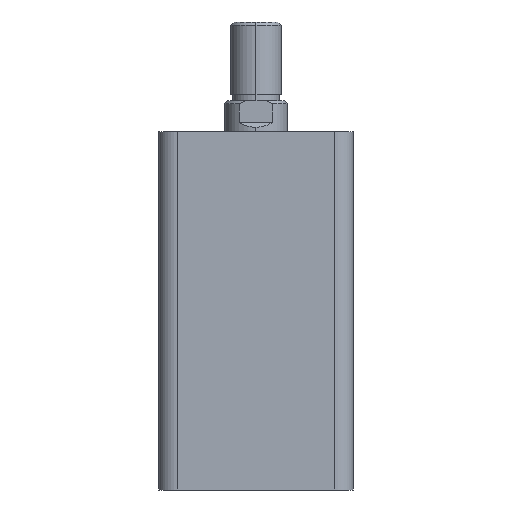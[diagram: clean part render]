
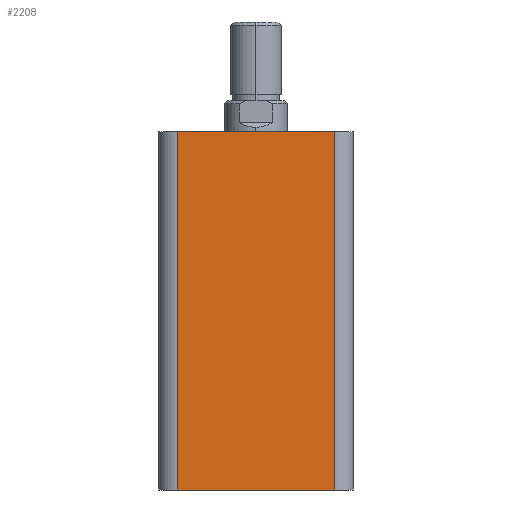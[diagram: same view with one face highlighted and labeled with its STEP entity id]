
A CAD part, left-side view. The second image highlights one B-rep face of the part: STEP entity #2208.
In plain terms, the highlighted planar face has unit normal (-1, 0, 0).
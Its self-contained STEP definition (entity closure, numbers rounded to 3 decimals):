
#51 = FACE_OUTER_BOUND ( 'NONE', #3248, .T. ) ;
#500 = LINE ( 'NONE', #4315, #502 ) ;
#502 = VECTOR ( 'NONE', #4316, 1000. ) ;
#539 = LINE ( 'NONE', #4485, #543 ) ;
#543 = VECTOR ( 'NONE', #4483, 1000. ) ;
#557 = LINE ( 'NONE', #4509, #560 ) ;
#559 = LINE ( 'NONE', #4511, #562 ) ;
#560 = VECTOR ( 'NONE', #4510, 1000. ) ;
#562 = VECTOR ( 'NONE', #4512, 1000. ) ;
#887 = AXIS2_PLACEMENT_3D ( 'NONE', #1978, #1976, #1975 ) ;
#1675 = CARTESIAN_POINT ( 'NONE',  ( -31., 25., 0. ) ) ;
#1726 = CARTESIAN_POINT ( 'NONE',  ( -31., -25., 0. ) ) ;
#1763 = CARTESIAN_POINT ( 'NONE',  ( -31., 25., 114. ) ) ;
#1859 = CARTESIAN_POINT ( 'NONE',  ( -31., -25., 114. ) ) ;
#1975 = DIRECTION ( 'NONE',  ( 0., 0., -1. ) ) ;
#1976 = DIRECTION ( 'NONE',  ( 1., 0., 0. ) ) ;
#1978 = CARTESIAN_POINT ( 'NONE',  ( -31., 31., 114. ) ) ;
#1979 = PLANE ( 'NONE',  #887 ) ;
#2208 = ADVANCED_FACE ( 'NONE', ( #51 ), #1979, .F. ) ;
#2800 = EDGE_CURVE ( 'NONE', #5053, #5155, #500, .T. ) ;
#2835 = EDGE_CURVE ( 'NONE', #4915, #4979, #539, .T. ) ;
#2845 = EDGE_CURVE ( 'NONE', #4979, #5155, #557, .T. ) ;
#2846 = EDGE_CURVE ( 'NONE', #5053, #4915, #559, .T. ) ;
#3248 = EDGE_LOOP ( 'NONE', ( #5006, #5045, #4977, #5008 ) ) ;
#4315 = CARTESIAN_POINT ( 'NONE',  ( -31., 31., 114. ) ) ;
#4316 = DIRECTION ( 'NONE',  ( 0., -1., 0. ) ) ;
#4483 = DIRECTION ( 'NONE',  ( 0., -1., 0. ) ) ;
#4485 = CARTESIAN_POINT ( 'NONE',  ( -31., 31., 0. ) ) ;
#4509 = CARTESIAN_POINT ( 'NONE',  ( -31., -25., 114. ) ) ;
#4510 = DIRECTION ( 'NONE',  ( 0., 0., 1. ) ) ;
#4511 = CARTESIAN_POINT ( 'NONE',  ( -31., 25., 114. ) ) ;
#4512 = DIRECTION ( 'NONE',  ( 0., 0., -1. ) ) ;
#4915 = VERTEX_POINT ( 'NONE', #1675 ) ;
#4977 = ORIENTED_EDGE ( 'NONE', *, *, #2800, .F. ) ;
#4979 = VERTEX_POINT ( 'NONE', #1726 ) ;
#5006 = ORIENTED_EDGE ( 'NONE', *, *, #2835, .T. ) ;
#5008 = ORIENTED_EDGE ( 'NONE', *, *, #2846, .T. ) ;
#5045 = ORIENTED_EDGE ( 'NONE', *, *, #2845, .T. ) ;
#5053 = VERTEX_POINT ( 'NONE', #1763 ) ;
#5155 = VERTEX_POINT ( 'NONE', #1859 ) ;
